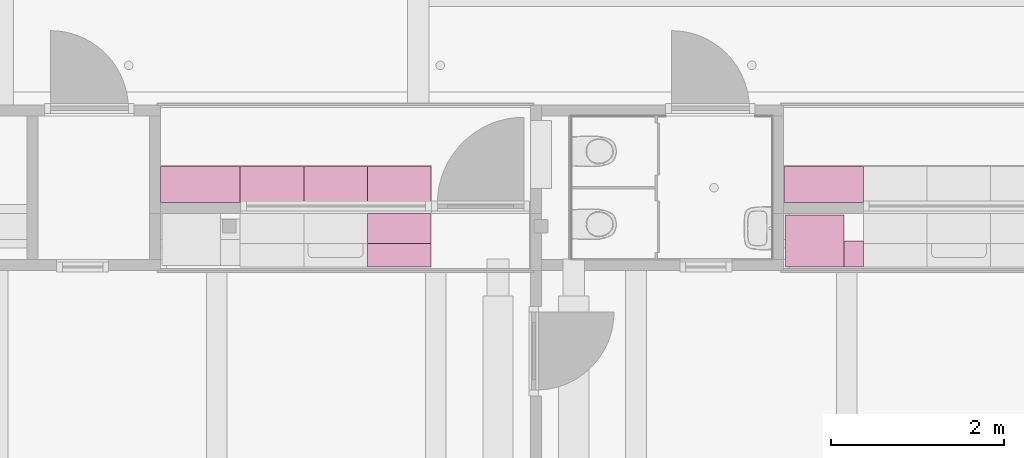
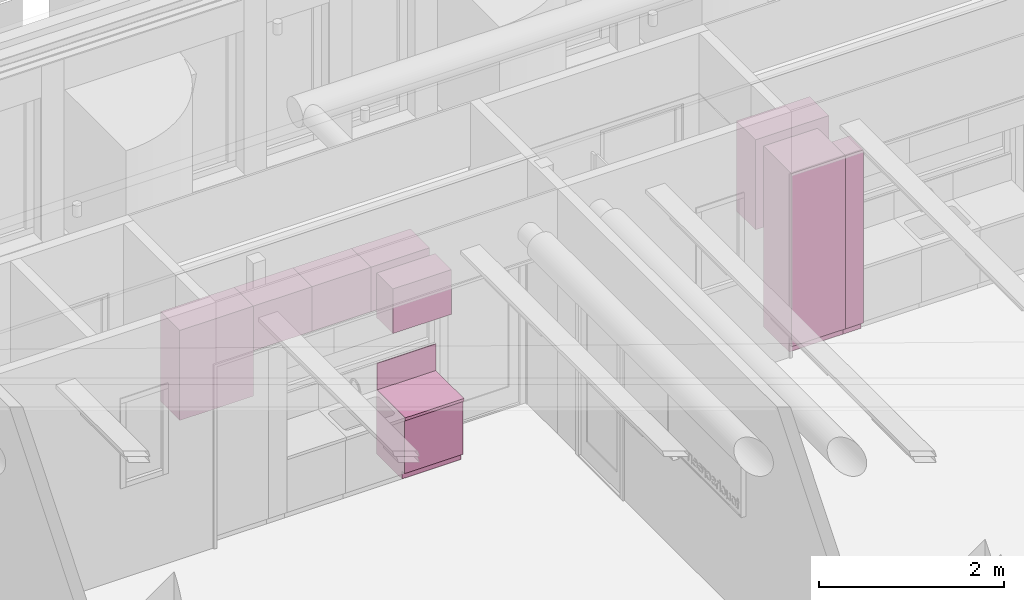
# One storey, part 90 of 128: 8 furnishings.
"""IFC2X3 building model written with IfcOpenShell, lengths in millimetres."""

from ifc_helpers import new_model, entity, si_unit, converted_unit, derived_unit, direction, frame, origin, origin_2d_with_axis, place, context, subcontext, project, spatial, polyline, rectangle, outline, extrude, source, transform, mapped, material, type_object, type_shapes, element, save


model = new_model("IFC2X3")

# Units and contexts
model_context = context("Model", 3, precision=0.01, world=origin(), true_north=direction((6.123031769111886e-17, 1.0)))
body_context = subcontext(model_context, "Body", "Model", "MODEL_VIEW")
ifc_project = project(units=[si_unit("LENGTHUNIT", "METRE", prefix="MILLI"), si_unit("AREAUNIT", "SQUARE_METRE"), si_unit("VOLUMEUNIT", "CUBIC_METRE"), converted_unit("PLANEANGLEUNIT", "DEGREE", entity("IfcRatioMeasure", 0.017453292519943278), si_unit("PLANEANGLEUNIT", "RADIAN"), dimensions=[0, 0, 0, 0, 0, 0, 0]), si_unit("MASSUNIT", "GRAM", prefix="KILO"), derived_unit("MASSDENSITYUNIT", [(si_unit("MASSUNIT", "GRAM", prefix="KILO"), 1), (si_unit("LENGTHUNIT", "METRE"), -3)]), derived_unit("IONCONCENTRATIONUNIT", [(si_unit("MASSUNIT", "GRAM", prefix="KILO"), 1), (si_unit("LENGTHUNIT", "METRE"), -3)]), derived_unit("MOMENTOFINERTIAUNIT", [(si_unit("LENGTHUNIT", "METRE"), 4)]), si_unit("TIMEUNIT", "SECOND"), si_unit("FREQUENCYUNIT", "HERTZ"), si_unit("THERMODYNAMICTEMPERATUREUNIT", "DEGREE_CELSIUS"), derived_unit("THERMALTRANSMITTANCEUNIT", [(si_unit("MASSUNIT", "GRAM", prefix="KILO"), 1), (si_unit("THERMODYNAMICTEMPERATUREUNIT", "KELVIN"), -1), (si_unit("TIMEUNIT", "SECOND"), -3)]), derived_unit("THERMALCONDUCTANCEUNIT", [(si_unit("MASSUNIT", "GRAM", prefix="KILO"), 1), (si_unit("THERMODYNAMICTEMPERATUREUNIT", "KELVIN"), -1), (si_unit("TIMEUNIT", "SECOND"), -3), (si_unit("LENGTHUNIT", "METRE"), 1)]), derived_unit("VOLUMETRICFLOWRATEUNIT", [(si_unit("LENGTHUNIT", "METRE"), 3), (si_unit("TIMEUNIT", "SECOND"), -1)]), derived_unit("MASSFLOWRATEUNIT", [(si_unit("MASSUNIT", "GRAM", prefix="KILO"), 1), (si_unit("TIMEUNIT", "SECOND"), -1)]), derived_unit("ROTATIONALFREQUENCYUNIT", [(si_unit("TIMEUNIT", "SECOND"), -1)]), si_unit("ELECTRICCURRENTUNIT", "AMPERE"), si_unit("ELECTRICVOLTAGEUNIT", "VOLT"), si_unit("POWERUNIT", "WATT"), si_unit("FORCEUNIT", "NEWTON", prefix="KILO"), si_unit("ILLUMINANCEUNIT", "LUX"), si_unit("LUMINOUSFLUXUNIT", "LUMEN"), si_unit("LUMINOUSINTENSITYUNIT", "CANDELA"), derived_unit("USERDEFINED", [(si_unit("MASSUNIT", "GRAM", prefix="KILO"), -1), (si_unit("LENGTHUNIT", "METRE"), -2), (si_unit("TIMEUNIT", "SECOND"), 3), (si_unit("LUMINOUSFLUXUNIT", "LUMEN"), 1)]), derived_unit("USERDEFINED", [(si_unit("MASSUNIT", "GRAM", prefix="KILO"), 1), (si_unit("TIMEUNIT", "SECOND"), -3), (si_unit("LENGTHUNIT", "METRE"), 3), (si_unit("ELECTRICCURRENTUNIT", "AMPERE"), -2)]), derived_unit("SOUNDPOWERUNIT", [(si_unit("MASSUNIT", "GRAM", prefix="KILO"), 1), (si_unit("TIMEUNIT", "SECOND"), -3), (si_unit("LENGTHUNIT", "METRE"), 2)]), derived_unit("SOUNDPRESSUREUNIT", [(si_unit("MASSUNIT", "GRAM", prefix="KILO"), 1), (si_unit("LENGTHUNIT", "METRE"), -1), (si_unit("TIMEUNIT", "SECOND"), -2)]), derived_unit("LINEARVELOCITYUNIT", [(si_unit("LENGTHUNIT", "METRE"), 1), (si_unit("TIMEUNIT", "SECOND"), -1)]), si_unit("PRESSUREUNIT", "PASCAL"), derived_unit("USERDEFINED", [(si_unit("MASSUNIT", "GRAM", prefix="KILO"), 1), (si_unit("LENGTHUNIT", "METRE"), -2), (si_unit("TIMEUNIT", "SECOND"), -2)]), derived_unit("LINEARFORCEUNIT", [(si_unit("MASSUNIT", "GRAM", prefix="KILO"), 1), (si_unit("TIMEUNIT", "SECOND"), -2)]), derived_unit("PLANARFORCEUNIT", [(si_unit("MASSUNIT", "GRAM", prefix="KILO"), 1), (si_unit("LENGTHUNIT", "METRE"), -1), (si_unit("TIMEUNIT", "SECOND"), -2)]), derived_unit("SPECIFICHEATCAPACITYUNIT", [(si_unit("THERMODYNAMICTEMPERATUREUNIT", "KELVIN"), -1), (si_unit("LENGTHUNIT", "METRE"), 2), (si_unit("TIMEUNIT", "SECOND"), -2)]), derived_unit("HEATINGVALUEUNIT", [(si_unit("LENGTHUNIT", "METRE"), 2), (si_unit("TIMEUNIT", "SECOND"), -2)]), derived_unit("VAPORPERMEABILITYUNIT", [(si_unit("LENGTHUNIT", "METRE"), -1), (si_unit("TIMEUNIT", "SECOND"), 1)]), derived_unit("DYNAMICVISCOSITYUNIT", [(si_unit("MASSUNIT", "GRAM", prefix="KILO"), 1), (si_unit("TIMEUNIT", "SECOND"), -1), (si_unit("LENGTHUNIT", "METRE"), -1)]), derived_unit("THERMALEXPANSIONCOEFFICIENTUNIT", [(si_unit("THERMODYNAMICTEMPERATUREUNIT", "KELVIN"), -1)]), derived_unit("MODULUSOFELASTICITYUNIT", [(si_unit("MASSUNIT", "GRAM", prefix="KILO"), 1), (si_unit("LENGTHUNIT", "METRE"), -1), (si_unit("TIMEUNIT", "SECOND"), -2)]), derived_unit("ISOTHERMALMOISTURECAPACITYUNIT", [(si_unit("LENGTHUNIT", "METRE"), 3), (si_unit("MASSUNIT", "GRAM", prefix="KILO"), -1)]), derived_unit("MOISTUREDIFFUSIVITYUNIT", [(si_unit("TIMEUNIT", "SECOND"), -1), (si_unit("LENGTHUNIT", "METRE"), 2)])], contexts=[model_context])

# Site, building, storey, space
site_placement = place(None, frame((0.0, 300.0, 0.0)))
site = spatial("IfcSite", under=ifc_project, at=site_placement, Name="<Kadastrale nummers>", CompositionType="ELEMENT")
building_placement = place(site_placement, origin())
building = spatial("IfcBuilding", under=site, at=building_placement, CompositionType="ELEMENT")
storey_placement = place(building_placement, frame((0.0, 0.0, 3560.0000331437)))
storey = spatial("IfcBuildingStorey", under=building, at=storey_placement, Name="01 eerste verdieping", CompositionType="ELEMENT", Elevation=3560.0000331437)
space_1_placement = place(storey_placement, origin())
space_1 = spatial("IfcSpace", under=storey, at=space_1_placement, Name="1.03", CompositionType="ELEMENT", InteriorOrExteriorSpace="INTERNAL")

# Furnishing
ifc_material = material(Name="ISR_HPL Kleur hout")
furniture_type_1 = type_object("IfcFurnitureType", Name="00_DAT Vaste inrichting Keukenkasten:Kast met Bovenkast bovenbouw", material=ifc_material)
shared_shape_1 = source(origin(), body_context, "Body", "SweptSolid", [
    extrude(rectangle(XDim=9.999999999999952, YDim=734.9999999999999, at=origin_2d_with_axis()), frame((367.49999999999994, 5.0, 850.0), z_axis=(0.0, 0.0, 1.0), x_axis=(0.0, -1.0, 0.0)), (0.0, 0.0, 1.0), 350.00000000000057),
    extrude(outline(polyline([(-440.5, 107.50000000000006), (-440.5, -442.4999999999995), (409.4999999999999, -442.4999999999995), (409.4999999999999, 177.49999999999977), (371.4999999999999, 177.49999999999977), (371.4999999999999, 157.49999999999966), (-340.4999999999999, 157.49999999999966), (-340.4999999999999, 107.50000000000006), (-440.5, 107.50000000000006)])), frame((0.0, 442.4999999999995, 440.5), z_axis=(-1.0, 0.0, 0.0), x_axis=(0.0, 0.0, 1.0)), (0.0, 0.0, -1.0), 735.0000000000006),
    extrude(rectangle(XDim=350.0, YDim=735.0000000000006, at=origin_2d_with_axis()), frame((367.5000000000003, 175.0, 1800.0), z_axis=(0.0, 0.0, 1.0), x_axis=(0.0, -1.0, 0.0)), (0.0, 0.0, 1.0), 590.0000000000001),
])
type_shapes(furniture_type_1, [shared_shape_1])
furnishing_1_placement = place(space_1_placement, frame((23331.0, 45450.0, 90.00000187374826), z_axis=(0.0, 0.0, 1.0), x_axis=(-1.0, 0.0, 0.0)))
element("IfcFurnishingElement", 1, at=furnishing_1_placement, inside=space_1, type_object=furniture_type_1, material=ifc_material, Name="00_DAT Vaste inrichting Keukenkasten:Kast met Bovenkast bovenbouw", ObjectType="00_DAT Vaste inrichting Keukenkasten:Kast met Bovenkast bovenbouw", context=body_context, shape_type="MappedRepresentation", body=[
    mapped(shared_shape_1, transform((0.0, 0.0, 0.0), scale=1.0)),
])

# Space
space_2_placement = place(storey_placement, origin())
space_2 = spatial("IfcSpace", under=storey, at=space_2_placement, Name="1.04", CompositionType="ELEMENT", InteriorOrExteriorSpace="INTERNAL")

# Furnishings
furniture_type_2 = type_object("IfcFurnitureType", Name="00_DAT Vaste inrichting Keukenkasten hoog:Hogekast Lokaal 675B", material=ifc_material)
shared_shape_2 = source(origin(), body_context, "Body", "SweptSolid", [
    extrude(outline(polyline([(-830.0, 166.66666666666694), (-830.0, -383.3333333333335), (1560.0, -383.3333333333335), (1560.0, 216.66666666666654), (-730.0, 216.66666666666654), (-730.0, 166.66666666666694), (-830.0, 166.66666666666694)])), frame((0.0, 383.3333333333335, 830.0), z_axis=(-1.0, 0.0, 0.0), x_axis=(0.0, 0.0, 1.0)), (0.0, 0.0, -1.0), 675.0000000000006),
])
type_shapes(furniture_type_2, [shared_shape_2])
furnishing_2_placement = place(space_2_placement, frame((28100.0, 45430.0, 90.00000187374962), z_axis=(0.0, 0.0, 1.0), x_axis=(-1.0, 0.0, 0.0)))
element("IfcFurnishingElement", 2, at=furnishing_2_placement, inside=space_2, type_object=furniture_type_2, material=ifc_material, Name="00_DAT Vaste inrichting Keukenkasten hoog:Hogekast Lokaal 675B", ObjectType="00_DAT Vaste inrichting Keukenkasten hoog:Hogekast Lokaal 675B", context=body_context, shape_type="MappedRepresentation", body=[
    mapped(shared_shape_2, transform((0.0, 0.0, 0.0), scale=1.0)),
])
furniture_type_3 = type_object("IfcFurnitureType", Name="00_DAT Vaste inrichting Keukenkasten hoog:Plaat hoge kast", material=ifc_material)
shared_shape_3 = source(origin(), body_context, "Body", "SweptSolid", [
    extrude(outline(polyline([(-830.0, 66.66666666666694), (-830.0, -183.33333333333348), (1560.0, -183.33333333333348), (1560.0, 116.66666666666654), (-730.0, 116.66666666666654), (-730.0, 66.66666666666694), (-830.0, 66.66666666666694)])), frame((0.0, 183.33333333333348, 830.0), z_axis=(-1.0, 0.0, 0.0), x_axis=(0.0, 0.0, 1.0)), (0.0, 0.0, -1.0), 226.00000000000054),
])
type_shapes(furniture_type_3, [shared_shape_3])
furnishing_3_placement = place(space_2_placement, frame((28326.0, 45130.0, 90.00000187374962), z_axis=(0.0, 0.0, 1.0), x_axis=(-1.0, 0.0, 0.0)))
element("IfcFurnishingElement", 3, at=furnishing_3_placement, inside=space_2, type_object=furniture_type_3, material=ifc_material, Name="00_DAT Vaste inrichting Keukenkasten hoog:Plaat hoge kast", ObjectType="00_DAT Vaste inrichting Keukenkasten hoog:Plaat hoge kast", context=body_context, shape_type="MappedRepresentation", body=[
    mapped(shared_shape_3, transform((0.0, 0.0, 0.0), scale=1.0)),
])

# Space
space_3_placement = place(storey_placement, origin())
space_3 = spatial("IfcSpace", under=storey, at=space_3_placement, Name="1.03a", CompositionType="ELEMENT", InteriorOrExteriorSpace="INTERNAL")

# Furnishings
furniture_type_4 = type_object("IfcFurnitureType", Name="00_DAT Vaste inrichting Boven Keukenkasten:Bovenkast Gaderobe bso", material=ifc_material)
shared_shape_4 = source(origin(), body_context, "Body", "SweptSolid", [
    extrude(rectangle(XDim=415.0, YDim=735.0000000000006, at=origin_2d_with_axis()), frame((367.5000000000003, 207.5, 1800.0), z_axis=(0.0, 0.0, 1.0), x_axis=(0.0, -1.0, 0.0)), (0.0, 0.0, 1.0), 589.9999999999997),
])
type_shapes(furniture_type_4, [shared_shape_4])
for number, where, name in (
    (4, (22596.0, 45575.0, 90.00000187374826), "00_DAT Vaste inrichting Boven Keukenkasten:Bovenkast Gaderobe bso"),
    (5, (21126.0, 45575.0, 90.00000187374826), "00_DAT Vaste inrichting Boven Keukenkasten:Bovenkast Gaderobe bso"),
):
    element("IfcFurnishingElement", number, at=place(space_3_placement, frame(where)), inside=space_3, type_object=furniture_type_4, material=ifc_material, Name=name, ObjectType="00_DAT Vaste inrichting Boven Keukenkasten:Bovenkast Gaderobe bso", context=body_context, shape_type="MappedRepresentation", body=[
        mapped(shared_shape_4, transform((0.0, 0.0, 0.0), scale=1.0)),
    ])
furniture_type_5 = type_object("IfcFurnitureType", Name="00_DAT Vaste inrichting Boven Keukenkasten:Bovenkast Gaderobe bso", material=ifc_material)
shared_shape_5 = source(origin(), body_context, "Body", "SweptSolid", [
    extrude(rectangle(XDim=415.0, YDim=735.0000000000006, at=origin_2d_with_axis()), frame((367.5000000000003, 207.5, 1800.0), z_axis=(0.0, 0.0, 1.0), x_axis=(0.0, -1.0, 0.0)), (0.0, 0.0, 1.0), 589.9999999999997),
])
type_shapes(furniture_type_5, [shared_shape_5])
furnishing_4_placement = place(space_3_placement, frame((21861.0, 45575.0, 90.00000187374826)))
element("IfcFurnishingElement", 6, at=furnishing_4_placement, inside=space_3, type_object=furniture_type_5, material=ifc_material, Name="00_DAT Vaste inrichting Boven Keukenkasten:Bovenkast Gaderobe bso", ObjectType="00_DAT Vaste inrichting Boven Keukenkasten:Bovenkast Gaderobe bso", context=body_context, shape_type="MappedRepresentation", body=[
    mapped(shared_shape_5, transform((0.0, 0.0, 0.0), scale=1.0)),
])

# Space
space_4_placement = place(storey_placement, origin())
space_4 = spatial("IfcSpace", under=storey, at=space_4_placement, Name="1.04a", CompositionType="ELEMENT", InteriorOrExteriorSpace="INTERNAL")

# Furnishings
furniture_type_6 = type_object("IfcFurnitureType", Name="00_DAT Vaste inrichting Boven Keukenkasten:Bovenkast Gaderobe bso Hoog", material=ifc_material)
shared_shape_6 = source(origin(), body_context, "Body", "SweptSolid", [
    extrude(rectangle(XDim=415.0, YDim=920.0000000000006, at=origin_2d_with_axis()), frame((460.0, 207.5, 1200.0), z_axis=(0.0, 0.0, 1.0), x_axis=(0.0, -1.0, 0.0)), (0.0, 0.0, 1.0), 1189.9999999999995),
])
type_shapes(furniture_type_6, [shared_shape_6])
furnishing_5_placement = place(space_4_placement, frame((27406.0, 45575.0, 90.00000187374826)))
element("IfcFurnishingElement", 7, at=furnishing_5_placement, inside=space_4, type_object=furniture_type_6, material=ifc_material, Name="00_DAT Vaste inrichting Boven Keukenkasten:Bovenkast Gaderobe bso Hoog", ObjectType="00_DAT Vaste inrichting Boven Keukenkasten:Bovenkast Gaderobe bso Hoog", context=body_context, shape_type="MappedRepresentation", body=[
    mapped(shared_shape_6, transform((0.0, 0.0, 0.0), scale=1.0)),
])
furnishing_6_placement = place(space_3_placement, frame((20206.0, 45575.0, 90.00000187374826)))
element("IfcFurnishingElement", 8, at=furnishing_6_placement, inside=space_3, type_object=furniture_type_6, material=ifc_material, Name="00_DAT Vaste inrichting Boven Keukenkasten:Bovenkast Gaderobe bso Hoog", ObjectType="00_DAT Vaste inrichting Boven Keukenkasten:Bovenkast Gaderobe bso Hoog", context=body_context, shape_type="MappedRepresentation", body=[
    mapped(shared_shape_6, transform((0.0, 0.0, 0.0), scale=1.0)),
])

save(model, "model.ifc")
